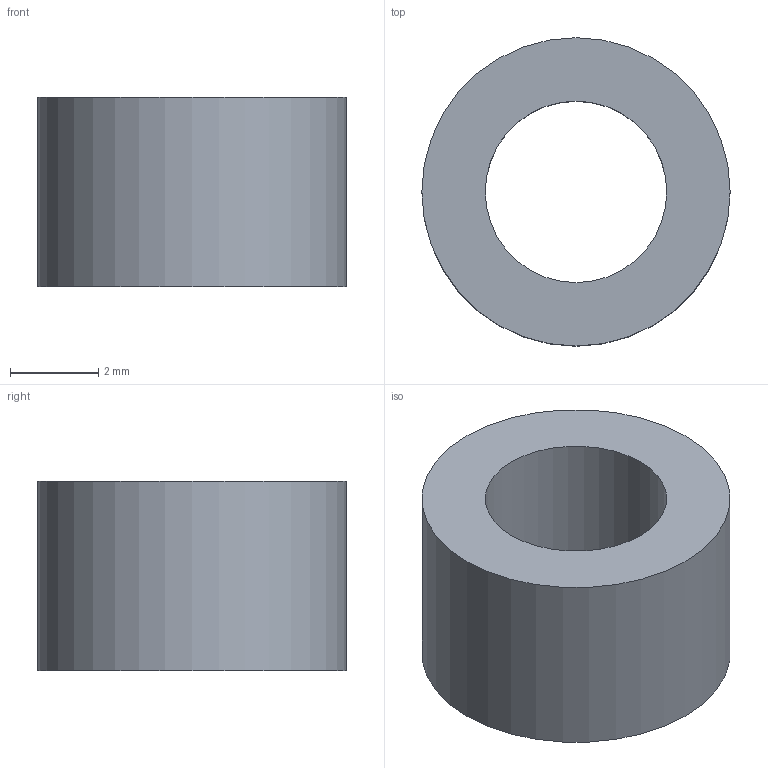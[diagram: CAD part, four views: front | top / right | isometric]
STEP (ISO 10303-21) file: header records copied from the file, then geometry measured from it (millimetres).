
FILE_DESCRIPTION(('Open CASCADE Model'),'2;1');
FILE_NAME('Open CASCADE Shape Model','2026-11-14T12:29:53',('Author'),( 'Open CASCADE'),'Open CASCADE STEP processor 8.0','Open CASCADE 8.0' ,'Unknown');
FILE_SCHEMA(('AUTOMOTIVE_DESIGN { 1 0 10303 214 1 1 1 1 }'));
Length unit declared in the file: millimetre
Products named in the file (1): Open CASCADE STEP translator 8.0 8
Bounding box: 7 x 7 x 4.3 mm (x, y, z)
Volume: 108.2 mm3; surface area: 200.5 mm2
Topology: 1 solids, 1 shells, 4 faces, 6 edges, 4 vertices
Faces by surface type: cylinder 2, plane 2
Full cylindrical faces by diameter (mm): 4.12 x1, 7 x1
Entity records: 186 total; most frequent: DIRECTION 32, CARTESIAN_POINT 27, ORIENTED_EDGE 12, PCURVE 12, DEFINITIONAL_REPRESENTATION 12, LINE 10, VECTOR 10, AXIS2_PLACEMENT_3D 9
